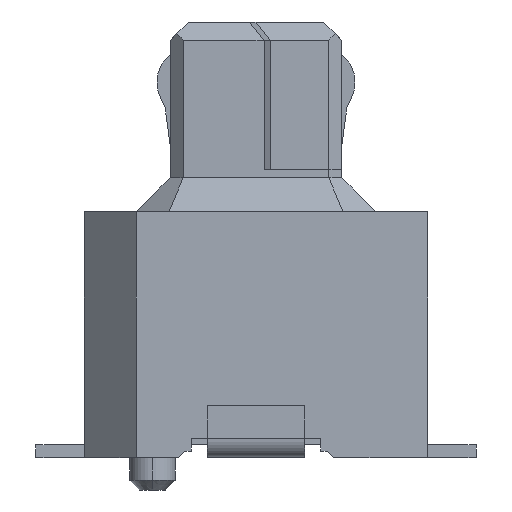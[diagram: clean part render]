
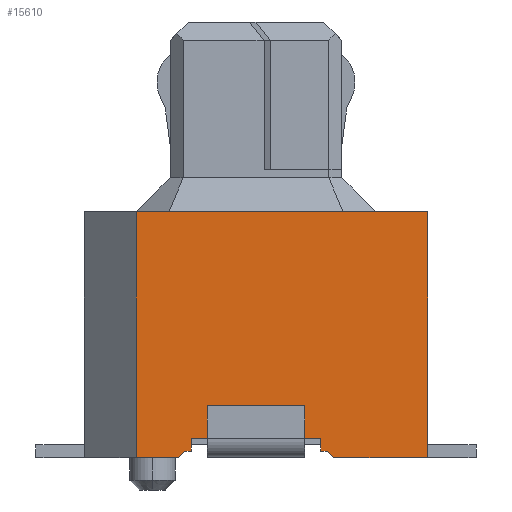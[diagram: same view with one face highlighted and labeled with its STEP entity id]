
A CAD part, left-side view. The second image highlights one B-rep face of the part: STEP entity #15610.
In plain terms, the highlighted planar face has unit normal (-1, 0, 0).
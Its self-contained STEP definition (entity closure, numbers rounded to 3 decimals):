
#14170=CARTESIAN_POINT('',(27.123,-1.041,-2.7
));
#14180=VERTEX_POINT('',#14170);
#14210=CARTESIAN_POINT('',(27.123,-4.691,-2.7));
#14220=DIRECTION('',(0.,1.,0.));
#14230=VECTOR('',#14220,1.);
#14240=LINE('',#14210,#14230);
#14250=CARTESIAN_POINT('',(27.123,-3.041,-2.7
));
#14260=VERTEX_POINT('',#14250);
#14270=EDGE_CURVE('',#14260,#14180,#14240,.T.);
#14710=CARTESIAN_POINT('',(27.123,-3.141,-1.9));
#14720=DIRECTION('',(-1.,0.,0.));
#14730=DIRECTION('',(0.,-1.,0.));
#14740=AXIS2_PLACEMENT_3D('',#14710,#14720,#14730);
#14750=PLANE('',#14740);
#14760=CARTESIAN_POINT('',(27.123,0.,-3.));
#14770=DIRECTION('',(0.,-1.,0.));
#14780=VECTOR('',#14770,1.);
#14790=LINE('',#14760,#14780);
#14800=CARTESIAN_POINT('',(27.123,-3.241,-3.));
#14810=VERTEX_POINT('',#14800);
#14820=CARTESIAN_POINT('',(27.123,-4.691,-3.));
#14830=VERTEX_POINT('',#14820);
#14840=EDGE_CURVE('',#14810,#14830,#14790,.T.);
#14850=ORIENTED_EDGE('',*,*,#14840,.T.);
#14860=CARTESIAN_POINT('',(27.123,-4.691,-4.45));
#14870=DIRECTION('',(0.,-0.707,-0.707));
#14880=VECTOR('',#14870,1.);
#14890=LINE('',#14860,#14880);
#14900=CARTESIAN_POINT('',(27.123,-3.141,-2.9));
#14910=VERTEX_POINT('',#14900);
#14920=EDGE_CURVE('',#14910,#14810,#14890,.T.);
#14930=ORIENTED_EDGE('',*,*,#14920,.T.);
#14940=CARTESIAN_POINT('',(27.123,-4.691,-2.9));
#14950=DIRECTION('',(0.,1.,0.));
#14960=VECTOR('',#14950,1.);
#14970=LINE('',#14940,#14960);
#14980=CARTESIAN_POINT('',(27.123,-3.041,-2.9));
#14990=VERTEX_POINT('',#14980);
#15000=EDGE_CURVE('',#14910,#14990,#14970,.T.);
#15010=ORIENTED_EDGE('',*,*,#15000,.F.);
#15020=CARTESIAN_POINT('',(27.123,-3.041,-1.899));
#15030=DIRECTION('',(0.,0.,1.));
#15040=VECTOR('',#15030,1.);
#15050=LINE('',#15020,#15040);
#15060=EDGE_CURVE('',#14990,#14260,#15050,.T.);
#15070=ORIENTED_EDGE('',*,*,#15060,.F.);
#15080=ORIENTED_EDGE('',*,*,#14270,.F.);
#15090=CARTESIAN_POINT('',(27.123,-1.041,-1.899));
#15100=DIRECTION('',(0.,0.,-1.));
#15110=VECTOR('',#15100,1.);
#15120=LINE('',#15090,#15110);
#15130=CARTESIAN_POINT('',(27.123,-1.041,-2.9));
#15140=VERTEX_POINT('',#15130);
#15150=EDGE_CURVE('',#14180,#15140,#15120,.T.);
#15160=ORIENTED_EDGE('',*,*,#15150,.F.);
#15170=CARTESIAN_POINT('',(27.123,-4.691,-2.9));
#15180=DIRECTION('',(0.,1.,0.));
#15190=VECTOR('',#15180,1.);
#15200=LINE('',#15170,#15190);
#15210=CARTESIAN_POINT('',(27.123,-0.941,-2.9));
#15220=VERTEX_POINT('',#15210);
#15230=EDGE_CURVE('',#15140,#15220,#15200,.T.);
#15240=ORIENTED_EDGE('',*,*,#15230,.F.);
#15250=CARTESIAN_POINT('',(27.123,-4.691,0.85
));
#15260=DIRECTION('',(0.,-0.707,0.707));
#15270=VECTOR('',#15260,1.);
#15280=LINE('',#15250,#15270);
#15290=CARTESIAN_POINT('',(27.123,-0.841,-3.));
#15300=VERTEX_POINT('',#15290);
#15310=EDGE_CURVE('',#15300,#15220,#15280,.T.);
#15320=ORIENTED_EDGE('',*,*,#15310,.T.);
#15330=CARTESIAN_POINT('',(27.123,-0.191,-3.));
#15340=VERTEX_POINT('',#15330);
#15350=EDGE_CURVE('',#15340,#15300,#14790,.T.);
#15360=ORIENTED_EDGE('',*,*,#15350,.T.);
#15370=CARTESIAN_POINT('',(27.123,-0.191,
-0.899));
#15380=DIRECTION('',(0.,0.,1.));
#15390=VECTOR('',#15380,1.);
#15400=LINE('',#15370,#15390);
#15410=CARTESIAN_POINT('',(27.123,-0.191,
0.8));
#15420=VERTEX_POINT('',#15410);
#15430=EDGE_CURVE('',#15340,#15420,#15400,.T.);
#15440=ORIENTED_EDGE('',*,*,#15430,.F.);
#15450=CARTESIAN_POINT('',(27.123,0.,0.8));
#15460=DIRECTION('',(0.,1.,0.));
#15470=VECTOR('',#15460,1.);
#15480=LINE('',#15450,#15470);
#15490=CARTESIAN_POINT('',(27.123,-4.691,0.8
));
#15500=VERTEX_POINT('',#15490);
#15510=EDGE_CURVE('',#15500,#15420,#15480,.T.);
#15520=ORIENTED_EDGE('',*,*,#15510,.T.);
#15530=CARTESIAN_POINT('',(27.123,-4.691,5.73));
#15540=DIRECTION('',(0.,0.,-1.));
#15550=VECTOR('',#15540,1.);
#15560=LINE('',#15530,#15550);
#15570=EDGE_CURVE('',#15500,#14830,#15560,.T.);
#15580=ORIENTED_EDGE('',*,*,#15570,.F.);
#15590=EDGE_LOOP('',(#15580,#15520,#15440,#15360,#15320,#15240,#15160,
#15080,#15070,#15010,#14930,#14850));
#15600=FACE_OUTER_BOUND('',#15590,.T.);
#15610=ADVANCED_FACE('',(#15600),#14750,.T.);
